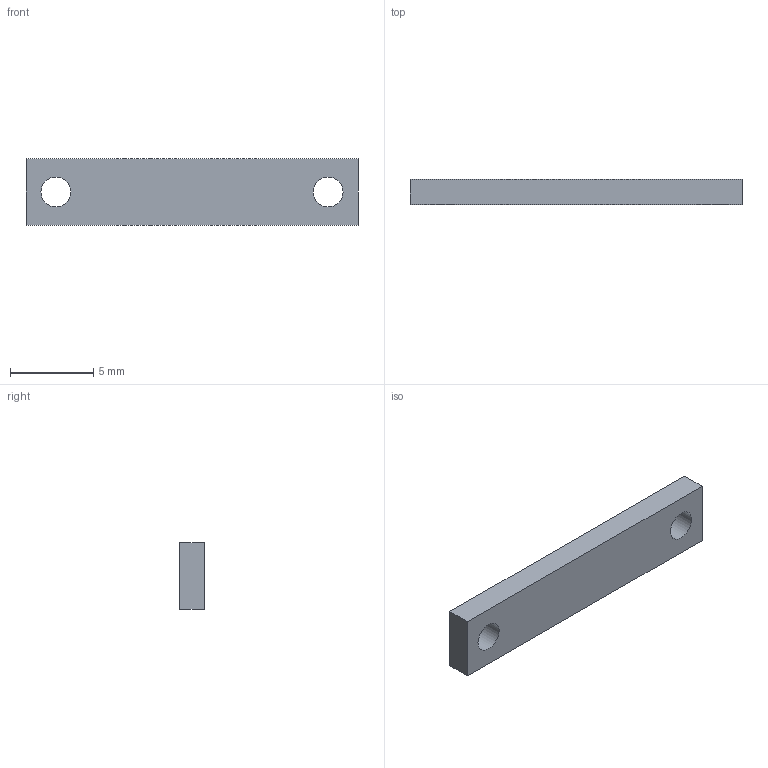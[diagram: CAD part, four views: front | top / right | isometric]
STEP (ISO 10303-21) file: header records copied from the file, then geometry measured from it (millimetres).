
FILE_DESCRIPTION(('Open CASCADE Model'),'2;1');
FILE_NAME('SPEAKER_TAB_KEEPER_8.5','2026-09-06T11:49:22',('Author'),( 'Open CASCADE'),'Open CASCADE STEP processor 7.8','build123d', 'Unknown');
FILE_SCHEMA(('AUTOMOTIVE_DESIGN { 1 0 10303 214 1 1 1 1 }'));
Length unit declared in the file: millimetre
Products named in the file (2): =>[0:1:1:2]; SPEAKER_TAB_KEEPER_8.5
Assembly tree (1 placements, depth 2):
  =>[0:1:1:2]
    SPEAKER_TAB_KEEPER_8.5
Bounding box: 20 x 1.5 x 4 mm (x, y, z)
Volume: 112.4 mm3; surface area: 238.8 mm2
Topology: 1 solids, 1 shells, 8 faces, 18 edges, 12 vertices
Faces by surface type: plane 6, cylinder 2
Full cylindrical faces by diameter (mm): 1.8 x2
Entity records: 508 total; most frequent: CARTESIAN_POINT 100, DIRECTION 74, LINE 46, VECTOR 46, ORIENTED_EDGE 36, PCURVE 36, DEFINITIONAL_REPRESENTATION 36, EDGE_CURVE 18
